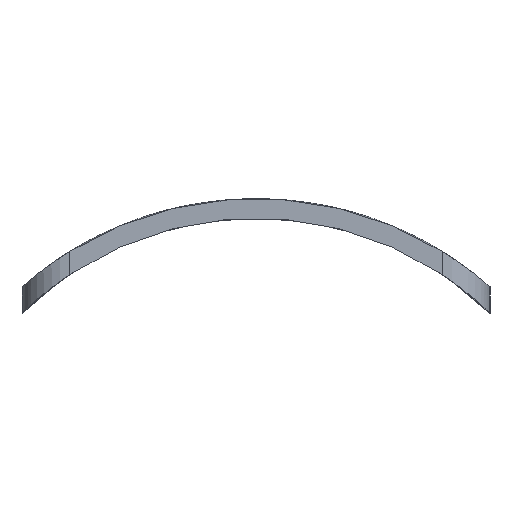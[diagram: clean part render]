
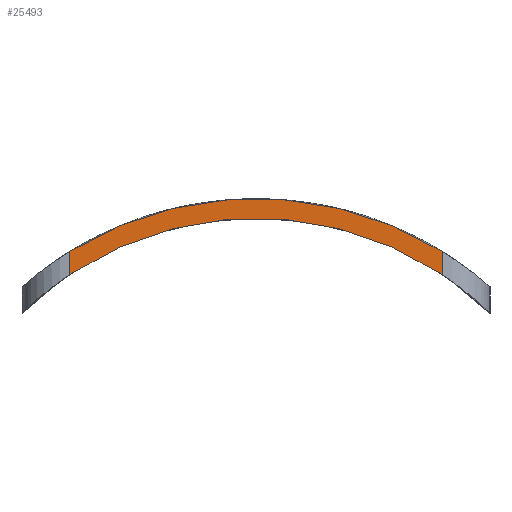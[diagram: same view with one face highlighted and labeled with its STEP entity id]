
A CAD part, left-side view. The second image highlights one B-rep face of the part: STEP entity #25493.
In plain terms, the highlighted planar face has unit normal (-1, 0, 0).
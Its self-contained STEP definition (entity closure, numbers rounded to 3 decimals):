
#22 = VERTEX_POINT('',#23);
#23 = CARTESIAN_POINT('',(245.3,10.5,17.022));
#61 = CYLINDRICAL_SURFACE('',#62,20.);
#62 = AXIS2_PLACEMENT_3D('',#63,#64,#65);
#63 = CARTESIAN_POINT('',(244.,0.,0.));
#64 = DIRECTION('',(1.,0.,0.));
#65 = DIRECTION('',(-0.,0.,1.));
#102 = CYLINDRICAL_SURFACE('',#103,2.7);
#103 = AXIS2_PLACEMENT_3D('',#104,#105,#106);
#104 = CARTESIAN_POINT('',(248.,10.5,5.));
#105 = DIRECTION('',(0.,0.,1.));
#106 = DIRECTION('',(-1.,-0.,0.));
#143 = EDGE_CURVE('',#22,#144,#146,.T.);
#144 = VERTEX_POINT('',#145);
#145 = CARTESIAN_POINT('',(245.3,-10.5,17.022));
#146 = SURFACE_CURVE('',#147,(#152,#159),.PCURVE_S1.);
#147 = CIRCLE('',#148,20.);
#148 = AXIS2_PLACEMENT_3D('',#149,#150,#151);
#149 = CARTESIAN_POINT('',(245.3,0.,0.));
#150 = DIRECTION('',(1.,0.,0.));
#151 = DIRECTION('',(-0.,0.525,0.851));
#152 = PCURVE('',#61,#153);
#153 = DEFINITIONAL_REPRESENTATION('',(#154),#158);
#154 = LINE('',#155,#156);
#155 = CARTESIAN_POINT('',(5.73,1.3));
#156 = VECTOR('',#157,1.);
#157 = DIRECTION('',(1.,0.));
#158 = ( GEOMETRIC_REPRESENTATION_CONTEXT(2) 
PARAMETRIC_REPRESENTATION_CONTEXT() REPRESENTATION_CONTEXT('2D SPACE',''
  ) );
#159 = PCURVE('',#160,#165);
#160 = PLANE('',#161);
#161 = AXIS2_PLACEMENT_3D('',#162,#163,#164);
#162 = CARTESIAN_POINT('',(245.3,-13.2,5.));
#163 = DIRECTION('',(1.,0.,0.));
#164 = DIRECTION('',(0.,0.,1.));
#165 = DEFINITIONAL_REPRESENTATION('',(#166),#170);
#166 = CIRCLE('',#167,20.);
#167 = AXIS2_PLACEMENT_2D('',#168,#169);
#168 = CARTESIAN_POINT('',(-5.,-13.2));
#169 = DIRECTION('',(0.851,-0.525));
#170 = ( GEOMETRIC_REPRESENTATION_CONTEXT(2) 
PARAMETRIC_REPRESENTATION_CONTEXT() REPRESENTATION_CONTEXT('2D SPACE',''
  ) );
#246 = CYLINDRICAL_SURFACE('',#247,2.7);
#247 = AXIS2_PLACEMENT_3D('',#248,#249,#250);
#248 = CARTESIAN_POINT('',(248.,-10.5,5.));
#249 = DIRECTION('',(0.,0.,1.));
#250 = DIRECTION('',(-1.,-0.,0.));
#16121 = CYLINDRICAL_SURFACE('',#16122,18.9);
#16122 = AXIS2_PLACEMENT_3D('',#16123,#16124,#16125);
#16123 = CARTESIAN_POINT('',(243.,0.,0.));
#16124 = DIRECTION('',(1.,0.,0.));
#16125 = DIRECTION('',(-0.,0.,1.));
#16187 = VERTEX_POINT('',#16188);
#16188 = CARTESIAN_POINT('',(245.3,10.5,15.715));
#16298 = EDGE_CURVE('',#16187,#16299,#16301,.T.);
#16299 = VERTEX_POINT('',#16300);
#16300 = CARTESIAN_POINT('',(245.3,-10.5,15.715));
#16301 = SURFACE_CURVE('',#16302,(#16307,#16314),.PCURVE_S1.);
#16302 = CIRCLE('',#16303,18.9);
#16303 = AXIS2_PLACEMENT_3D('',#16304,#16305,#16306);
#16304 = CARTESIAN_POINT('',(245.3,0.,0.));
#16305 = DIRECTION('',(1.,0.,0.));
#16306 = DIRECTION('',(-0.,0.556,0.831));
#16307 = PCURVE('',#16121,#16308);
#16308 = DEFINITIONAL_REPRESENTATION('',(#16309),#16313);
#16309 = LINE('',#16310,#16311);
#16310 = CARTESIAN_POINT('',(5.694,2.3));
#16311 = VECTOR('',#16312,1.);
#16312 = DIRECTION('',(1.,0.));
#16313 = ( GEOMETRIC_REPRESENTATION_CONTEXT(2) 
PARAMETRIC_REPRESENTATION_CONTEXT() REPRESENTATION_CONTEXT('2D SPACE',''
  ) );
#16314 = PCURVE('',#160,#16315);
#16315 = DEFINITIONAL_REPRESENTATION('',(#16316),#16320);
#16316 = CIRCLE('',#16317,18.9);
#16317 = AXIS2_PLACEMENT_2D('',#16318,#16319);
#16318 = CARTESIAN_POINT('',(-5.,-13.2));
#16319 = DIRECTION('',(0.831,-0.556));
#16320 = ( GEOMETRIC_REPRESENTATION_CONTEXT(2) 
PARAMETRIC_REPRESENTATION_CONTEXT() REPRESENTATION_CONTEXT('2D SPACE',''
  ) );
#25470 = EDGE_CURVE('',#16299,#144,#25471,.T.);
#25471 = SURFACE_CURVE('',#25472,(#25476,#25483),.PCURVE_S1.);
#25472 = LINE('',#25473,#25474);
#25473 = CARTESIAN_POINT('',(245.3,-10.5,5.));
#25474 = VECTOR('',#25475,1.);
#25475 = DIRECTION('',(0.,0.,1.));
#25476 = PCURVE('',#246,#25477);
#25477 = DEFINITIONAL_REPRESENTATION('',(#25478),#25482);
#25478 = LINE('',#25479,#25480);
#25479 = CARTESIAN_POINT('',(0.,0.));
#25480 = VECTOR('',#25481,1.);
#25481 = DIRECTION('',(0.,1.));
#25482 = ( GEOMETRIC_REPRESENTATION_CONTEXT(2) 
PARAMETRIC_REPRESENTATION_CONTEXT() REPRESENTATION_CONTEXT('2D SPACE',''
  ) );
#25483 = PCURVE('',#160,#25484);
#25484 = DEFINITIONAL_REPRESENTATION('',(#25485),#25489);
#25485 = LINE('',#25486,#25487);
#25486 = CARTESIAN_POINT('',(0.,-2.7));
#25487 = VECTOR('',#25488,1.);
#25488 = DIRECTION('',(1.,0.));
#25489 = ( GEOMETRIC_REPRESENTATION_CONTEXT(2) 
PARAMETRIC_REPRESENTATION_CONTEXT() REPRESENTATION_CONTEXT('2D SPACE',''
  ) );
#25493 = ADVANCED_FACE('',(#25494),#160,.F.);
#25494 = FACE_BOUND('',#25495,.F.);
#25495 = EDGE_LOOP('',(#25496,#25497,#25498,#25499));
#25496 = ORIENTED_EDGE('',*,*,#143,.T.);
#25497 = ORIENTED_EDGE('',*,*,#25470,.F.);
#25498 = ORIENTED_EDGE('',*,*,#16298,.F.);
#25499 = ORIENTED_EDGE('',*,*,#25500,.T.);
#25500 = EDGE_CURVE('',#16187,#22,#25501,.T.);
#25501 = SURFACE_CURVE('',#25502,(#25506,#25513),.PCURVE_S1.);
#25502 = LINE('',#25503,#25504);
#25503 = CARTESIAN_POINT('',(245.3,10.5,5.));
#25504 = VECTOR('',#25505,1.);
#25505 = DIRECTION('',(0.,0.,1.));
#25506 = PCURVE('',#160,#25507);
#25507 = DEFINITIONAL_REPRESENTATION('',(#25508),#25512);
#25508 = LINE('',#25509,#25510);
#25509 = CARTESIAN_POINT('',(0.,-23.7));
#25510 = VECTOR('',#25511,1.);
#25511 = DIRECTION('',(1.,0.));
#25512 = ( GEOMETRIC_REPRESENTATION_CONTEXT(2) 
PARAMETRIC_REPRESENTATION_CONTEXT() REPRESENTATION_CONTEXT('2D SPACE',''
  ) );
#25513 = PCURVE('',#102,#25514);
#25514 = DEFINITIONAL_REPRESENTATION('',(#25515),#25519);
#25515 = LINE('',#25516,#25517);
#25516 = CARTESIAN_POINT('',(-0.,0.));
#25517 = VECTOR('',#25518,1.);
#25518 = DIRECTION('',(-0.,1.));
#25519 = ( GEOMETRIC_REPRESENTATION_CONTEXT(2) 
PARAMETRIC_REPRESENTATION_CONTEXT() REPRESENTATION_CONTEXT('2D SPACE',''
  ) );
